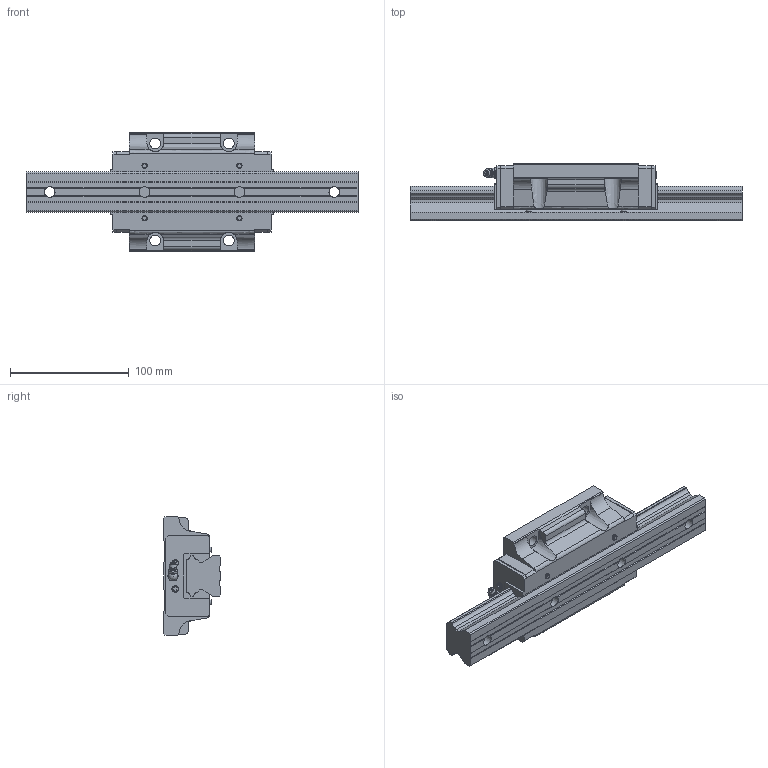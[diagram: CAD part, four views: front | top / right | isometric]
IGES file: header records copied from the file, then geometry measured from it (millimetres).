
Start section: Data from Parasolid IGES Translator 26.0.171, Copyright(c) 2006 Siemens PLM Software. All Rights Reserved.
Global section: file name: HSR35M1LB1SS-280L_G20_0_B-M6F_71-3_0_0_0.igs; native system: By Siemens PLM Incorporated; preprocessor: XPlus GENERIC/IGES 26.0.171; author: Noname; organization: Noname; date: 20240523.061757; units: millimetre
Bounding box: 280 x 48 x 100 mm (x, y, z)
Surface area: 90111.9 mm2 (no closed solid volume)
Topology: 0 solids, 0 shells, 293 faces, 1608 edges, 1549 vertices
Faces by surface type: extrusion 214, revolution 79
